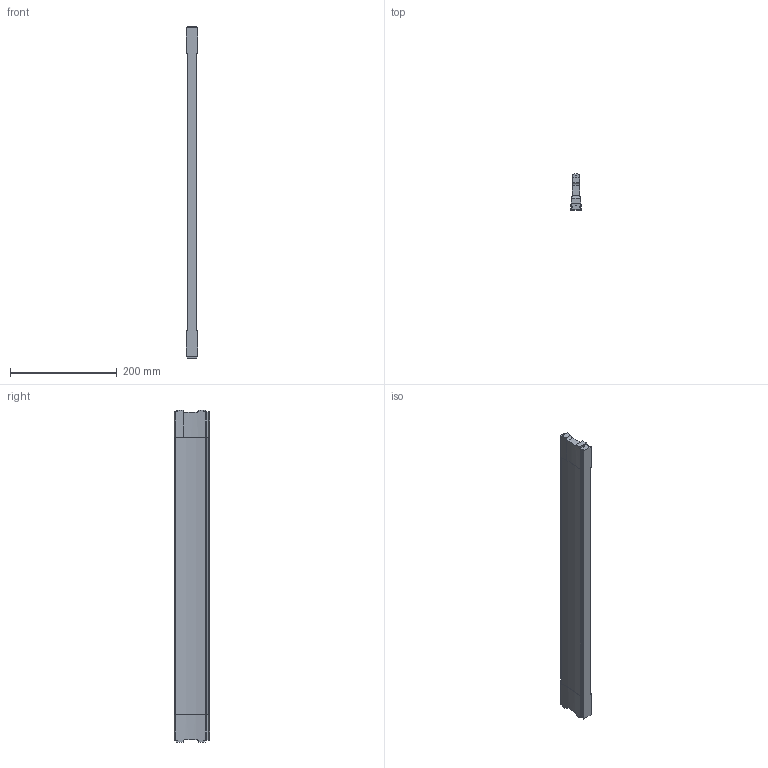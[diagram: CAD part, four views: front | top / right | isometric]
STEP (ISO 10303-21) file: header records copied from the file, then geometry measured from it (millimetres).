
FILE_DESCRIPTION (( 'STEP AP214' ), '1' );
FILE_NAME ('Traverse DWD XP NL650 Mass X618,4_montiert.step', '2010-09-21T13:16:52', ( 'grass' ), ( '' ), 'SwSTEP 2.0', 'SolidWorks 2010', '' );
FILE_SCHEMA (( 'AUTOMOTIVE_DESIGN' ));
Length unit declared in the file: millimetre
Products named in the file (1): Traverse DWD XP NL650 Mass X618,4_montiert
Bounding box: 21.4 x 67.5 x 623 mm (x, y, z)
Volume: 517314.1 mm3; surface area: 108141.4 mm2
Topology: 1 solids, 1 shells, 125 faces, 369 edges, 246 vertices
Faces by surface type: cylinder 68, plane 57
Entity records: 4377 total; most frequent: CARTESIAN_POINT 879, DIRECTION 753, ORIENTED_EDGE 738, EDGE_CURVE 369, AXIS2_PLACEMENT_3D 268, VERTEX_POINT 246, VECTOR 217, LINE 217
